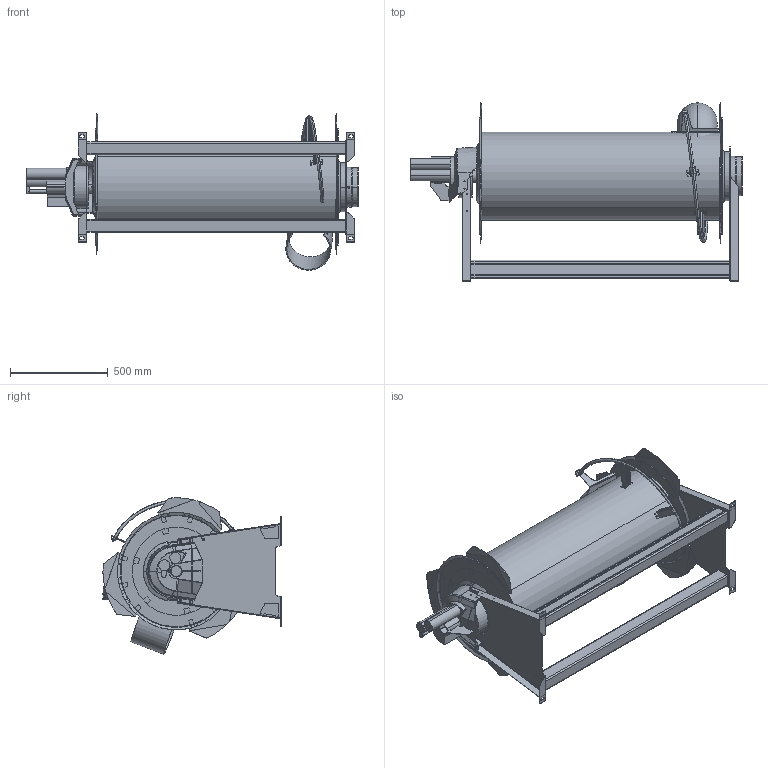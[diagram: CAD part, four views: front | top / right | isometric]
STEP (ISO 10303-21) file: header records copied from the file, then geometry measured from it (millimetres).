
FILE_DESCRIPTION((''),'2;1');
FILE_NAME('ASEM_130','2022-04-14T07:05:26',('Tomas Bellgran'),(''),'CREO PARAMETRIC BY PTC INC, 2018260','CREO PARAMETRIC BY PTC INC, 2018260','');
FILE_SCHEMA(('AUTOMOTIVE_DESIGN { 1 0 10303 214 1 1 1 1 }'));
Length unit declared in the file: millimetre
Products named in the file (31): 110964; 110942; 110944; 110946; 110947; 110486; 110803; 110529; 111052; 110997; 110528; 110996; 110978; 110661; 110696; 127974; G_HIBKM_MN_200-90; 127975; 110988; 110960; 104506; 144610; 143550; 144299; 144609; 144402; 111192_NEW; 144230; 104507_L; 129022; ASEM_130
Assembly tree (37 placements, depth 4):
  ASEM_130
    110486
      110964
      110942
      110947
        110944
        110946
    110803  x2
    110960
      110997
        110529
        111052  x3
      110996
        110528
        111052  x3
      110978
      110661  x2
      110696
      127974
      127975
        G_HIBKM_MN_200-90
      110988
    104507_L
      104506
      144402
        144610
        143550
        144299
        144609
      111192_NEW
      144230
    129022
Bounding box: 1695.45 x 910 x 799.14 mm (x, y, z)
Volume: 216030764 mm3; surface area: 6820507.9 mm2
Topology: 28 solids, 34 shells, 1404 faces, 3485 edges, 2142 vertices
Faces by surface type: plane 669, cylinder 574, bspline 87, cone 42, torus 32
Entity records: 56048 total; most frequent: CARTESIAN_POINT 12827, DIRECTION 5321, ORIENTED_EDGE 4686, EDGE_CURVE 2353, PRESENTATION_STYLE_ASSIGNMENT 2337, STYLED_ITEM 2332, CURVE_STYLE 1915, AXIS2_PLACEMENT_3D 1903
